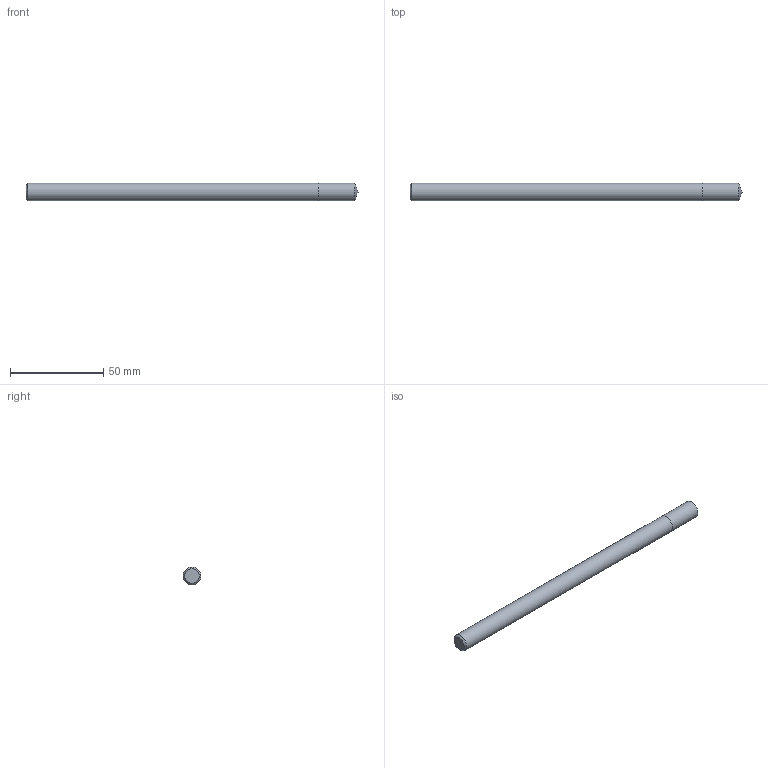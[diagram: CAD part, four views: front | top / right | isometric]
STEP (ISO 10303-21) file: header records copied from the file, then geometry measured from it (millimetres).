
FILE_DESCRIPTION (( 'STEP AP214' ), '1' );
FILE_NAME ('03-2233.STEP', '2022-02-07T07:06:46', ( 'USER' ), ( '' ), 'SwSTEP 2.0', 'SolidWorks 2018', '' );
FILE_SCHEMA (( 'AUTOMOTIVE_DESIGN' ));
Length unit declared in the file: millimetre
Products named in the file (1): 03-2233
Bounding box: 177.8 x 9.53 x 9.53 mm (x, y, z)
Volume: 12578.7 mm3; surface area: 5542.6 mm2
Topology: 2 solids, 2 shells, 7 faces, 11 edges, 7 vertices
Faces by surface type: plane 3, cylinder 2, cone 2
Full cylindrical faces by diameter (mm): 9.525 x2
Entity records: 189 total; most frequent: DIRECTION 26, CARTESIAN_POINT 18, AXIS2_PLACEMENT_3D 13, ORIENTED_EDGE 10, EDGE_LOOP 10, FACE_OUTER_BOUND 9, ADVANCED_FACE 7, UNCERTAINTY_MEASURE_WITH_UNIT 6
